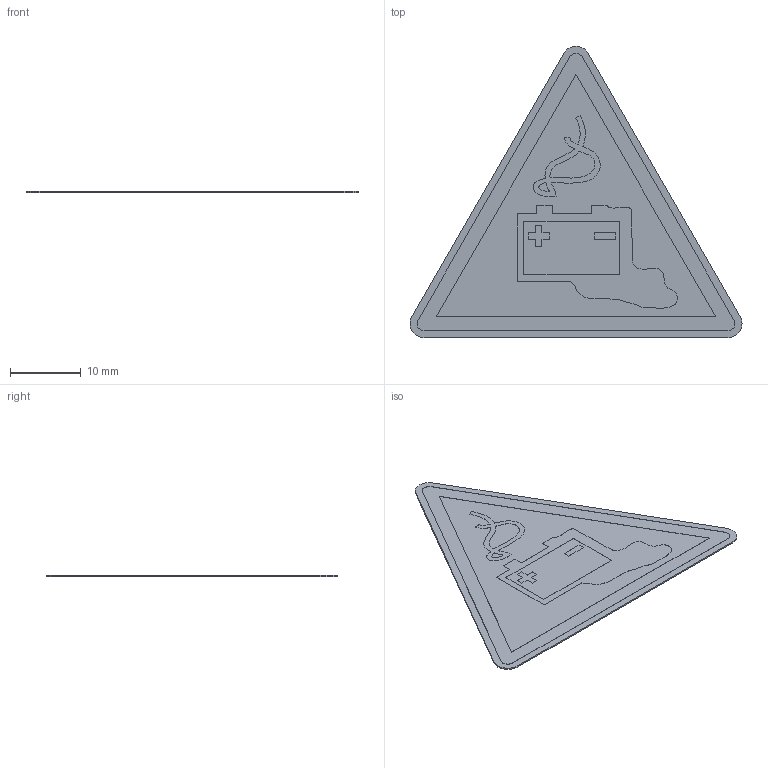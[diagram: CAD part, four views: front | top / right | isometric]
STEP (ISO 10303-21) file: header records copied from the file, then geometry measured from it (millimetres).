
FILE_DESCRIPTION (( 'STEP AP214' ), '1' );
FILE_NAME ('W026_Warnung vor Gefahren durch das Aufladen von Batterien.STEP', '2022-02-22T08:22:10', ( '' ), ( '' ), 'SwSTEP 2.0', 'SolidWorks 2021', '' );
FILE_SCHEMA (( 'AUTOMOTIVE_DESIGN' ));
Length unit declared in the file: millimetre
Products named in the file (1): W026_Warnung vor Gefahren durch das Aufladen von Batterien
Bounding box: 47.07 x 41.3 x 0.22 mm (x, y, z)
Volume: 221.4 mm3; surface area: 2181.8 mm2
Topology: 1 solids, 1 shells, 67 faces, 168 edges, 112 vertices
Faces by surface type: plane 49, bspline 10, cylinder 8
Entity records: 3110 total; most frequent: CARTESIAN_POINT 922, ORIENTED_EDGE 336, DIRECTION 280, EDGE_CURVE 168, VECTOR 132, LINE 132, VERTEX_POINT 112, EDGE_LOOP 76
